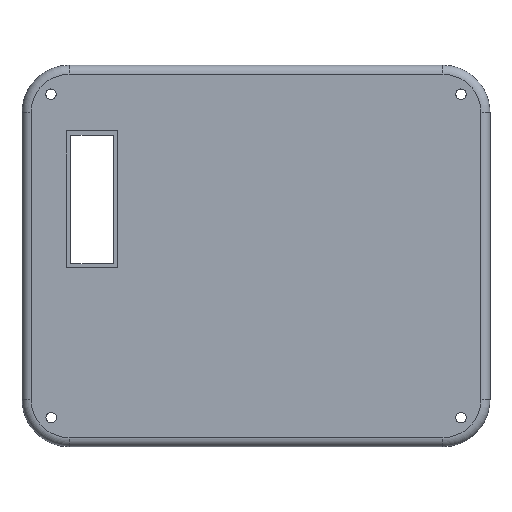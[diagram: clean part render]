
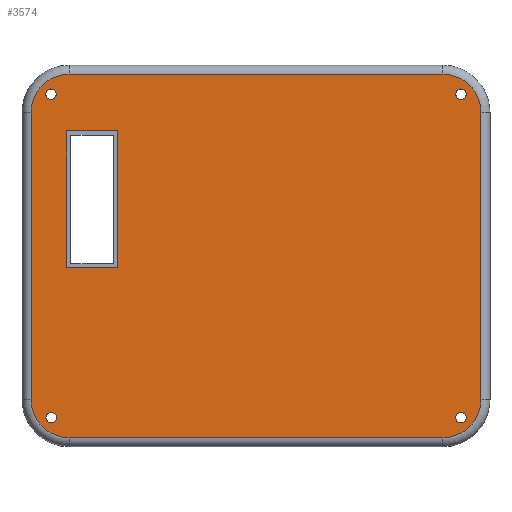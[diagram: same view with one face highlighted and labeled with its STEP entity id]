
A CAD part, top view. The second image highlights one B-rep face of the part: STEP entity #3574.
In plain terms, the highlighted planar face has unit normal (0, 0, 1).
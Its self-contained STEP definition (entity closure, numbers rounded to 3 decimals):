
#29=FACE_BOUND('',#1301,.T.);
#30=FACE_BOUND('',#1302,.T.);
#31=FACE_BOUND('',#1303,.T.);
#32=FACE_BOUND('',#1304,.T.);
#33=FACE_BOUND('',#1305,.T.);
#90=PLANE('',#3800);
#235=LINE('',#5125,#657);
#237=LINE('',#5137,#659);
#239=LINE('',#5149,#661);
#241=LINE('',#5158,#663);
#276=LINE('',#5238,#698);
#277=LINE('',#5240,#699);
#278=LINE('',#5242,#700);
#279=LINE('',#5243,#701);
#657=VECTOR('',#4093,10.);
#659=VECTOR('',#4107,10.);
#661=VECTOR('',#4121,10.);
#663=VECTOR('',#4133,10.);
#698=VECTOR('',#4186,10.);
#699=VECTOR('',#4187,10.);
#700=VECTOR('',#4188,10.);
#701=VECTOR('',#4189,10.);
#1110=FACE_OUTER_BOUND('',#1300,.T.);
#1300=EDGE_LOOP('',(#2555,#2556,#2557,#2558,#2559,#2560,#2561,#2562));
#1301=EDGE_LOOP('',(#2563,#2564,#2565,#2566));
#1302=EDGE_LOOP('',(#2567));
#1303=EDGE_LOOP('',(#2568));
#1304=EDGE_LOOP('',(#2569));
#1305=EDGE_LOOP('',(#2570));
#1494=CIRCLE('',#3770,11.284);
#1500=CIRCLE('',#3778,11.284);
#1504=CIRCLE('',#3784,11.284);
#1508=CIRCLE('',#3790,11.284);
#1511=CIRCLE('',#3801,1.55);
#1512=CIRCLE('',#3802,1.55);
#1513=CIRCLE('',#3803,1.55);
#1514=CIRCLE('',#3804,1.55);
#1582=VERTEX_POINT('',#5113);
#1583=VERTEX_POINT('',#5115);
#1585=VERTEX_POINT('',#5121);
#1587=VERTEX_POINT('',#5127);
#1589=VERTEX_POINT('',#5133);
#1591=VERTEX_POINT('',#5139);
#1593=VERTEX_POINT('',#5145);
#1595=VERTEX_POINT('',#5151);
#1631=VERTEX_POINT('',#5236);
#1632=VERTEX_POINT('',#5237);
#1633=VERTEX_POINT('',#5239);
#1634=VERTEX_POINT('',#5241);
#1635=VERTEX_POINT('',#5244);
#1636=VERTEX_POINT('',#5246);
#1637=VERTEX_POINT('',#5248);
#1638=VERTEX_POINT('',#5250);
#1939=EDGE_CURVE('',#1582,#1583,#1494,.T.);
#1944=EDGE_CURVE('',#1583,#1585,#235,.T.);
#1947=EDGE_CURVE('',#1585,#1587,#1500,.T.);
#1950=EDGE_CURVE('',#1587,#1589,#237,.T.);
#1953=EDGE_CURVE('',#1589,#1591,#1504,.T.);
#1956=EDGE_CURVE('',#1591,#1593,#239,.T.);
#1959=EDGE_CURVE('',#1593,#1595,#1508,.T.);
#1961=EDGE_CURVE('',#1595,#1582,#241,.T.);
#2000=EDGE_CURVE('',#1631,#1632,#276,.T.);
#2001=EDGE_CURVE('',#1632,#1633,#277,.T.);
#2002=EDGE_CURVE('',#1633,#1634,#278,.T.);
#2003=EDGE_CURVE('',#1634,#1631,#279,.T.);
#2004=EDGE_CURVE('',#1635,#1635,#1511,.T.);
#2005=EDGE_CURVE('',#1636,#1636,#1512,.T.);
#2006=EDGE_CURVE('',#1637,#1637,#1513,.T.);
#2007=EDGE_CURVE('',#1638,#1638,#1514,.T.);
#2555=ORIENTED_EDGE('',*,*,#1939,.F.);
#2556=ORIENTED_EDGE('',*,*,#1961,.F.);
#2557=ORIENTED_EDGE('',*,*,#1959,.F.);
#2558=ORIENTED_EDGE('',*,*,#1956,.F.);
#2559=ORIENTED_EDGE('',*,*,#1953,.F.);
#2560=ORIENTED_EDGE('',*,*,#1950,.F.);
#2561=ORIENTED_EDGE('',*,*,#1947,.F.);
#2562=ORIENTED_EDGE('',*,*,#1944,.F.);
#2563=ORIENTED_EDGE('',*,*,#2000,.T.);
#2564=ORIENTED_EDGE('',*,*,#2001,.T.);
#2565=ORIENTED_EDGE('',*,*,#2002,.T.);
#2566=ORIENTED_EDGE('',*,*,#2003,.T.);
#2567=ORIENTED_EDGE('',*,*,#2004,.T.);
#2568=ORIENTED_EDGE('',*,*,#2005,.T.);
#2569=ORIENTED_EDGE('',*,*,#2006,.T.);
#2570=ORIENTED_EDGE('',*,*,#2007,.T.);
#3574=ADVANCED_FACE('',(#1110,#29,#30,#31,#32,#33),#90,.T.);
#3770=AXIS2_PLACEMENT_3D('',#5116,#4082,#4083);
#3778=AXIS2_PLACEMENT_3D('',#5131,#4100,#4101);
#3784=AXIS2_PLACEMENT_3D('',#5143,#4114,#4115);
#3790=AXIS2_PLACEMENT_3D('',#5155,#4128,#4129);
#3800=AXIS2_PLACEMENT_3D('',#5235,#4184,#4185);
#3801=AXIS2_PLACEMENT_3D('',#5245,#4190,#4191);
#3802=AXIS2_PLACEMENT_3D('',#5247,#4192,#4193);
#3803=AXIS2_PLACEMENT_3D('',#5249,#4194,#4195);
#3804=AXIS2_PLACEMENT_3D('',#5251,#4196,#4197);
#4082=DIRECTION('center_axis',(0.,0.,
-1.));
#4083=DIRECTION('ref_axis',(-0.707,0.707,0.));
#4093=DIRECTION('',(1.,0.,0.));
#4100=DIRECTION('center_axis',(0.,0.,
-1.));
#4101=DIRECTION('ref_axis',(0.707,0.707,0.));
#4107=DIRECTION('',(0.,-1.,0.));
#4114=DIRECTION('center_axis',(0.,0.,
-1.));
#4115=DIRECTION('ref_axis',(0.707,-0.707,0.));
#4121=DIRECTION('',(-1.,0.,0.));
#4128=DIRECTION('center_axis',(0.,0.,
-1.));
#4129=DIRECTION('ref_axis',(-0.707,-0.707,0.));
#4133=DIRECTION('',(0.,1.,0.));
#4184=DIRECTION('center_axis',(0.,0.,
1.));
#4185=DIRECTION('ref_axis',(1.,0.,0.));
#4186=DIRECTION('',(0.,1.,0.));
#4187=DIRECTION('',(1.,0.,0.));
#4188=DIRECTION('',(0.,-1.,0.));
#4189=DIRECTION('',(-1.,0.,0.));
#4190=DIRECTION('center_axis',(0.,0.,
-1.));
#4191=DIRECTION('ref_axis',(-1.,0.,0.));
#4192=DIRECTION('center_axis',(0.,0.,
-1.));
#4193=DIRECTION('ref_axis',(-1.,0.,0.));
#4194=DIRECTION('center_axis',(0.,0.,
-1.));
#4195=DIRECTION('ref_axis',(-1.,0.,0.));
#4196=DIRECTION('center_axis',(0.,0.,
-1.));
#4197=DIRECTION('ref_axis',(-1.,0.,0.));
#5113=CARTESIAN_POINT('',(-0.964,95.47,20.4));
#5115=CARTESIAN_POINT('',(10.32,106.754,20.4));
#5116=CARTESIAN_POINT('Origin',(10.32,95.47,20.4));
#5121=CARTESIAN_POINT('',(121.125,106.754,20.4));
#5125=CARTESIAN_POINT('',(93.584,106.754,20.4));
#5127=CARTESIAN_POINT('',(132.409,95.47,20.4));
#5131=CARTESIAN_POINT('Origin',(121.125,95.47,20.4));
#5133=CARTESIAN_POINT('',(132.409,10.32,20.4));
#5137=CARTESIAN_POINT('',(132.409,31.448,20.4));
#5139=CARTESIAN_POINT('',(121.125,-0.964,20.4));
#5143=CARTESIAN_POINT('Origin',(121.125,10.32,20.4));
#5145=CARTESIAN_POINT('',(10.32,-0.964,20.4));
#5149=CARTESIAN_POINT('',(37.861,-0.964,20.4));
#5151=CARTESIAN_POINT('',(-0.964,10.32,20.4));
#5155=CARTESIAN_POINT('Origin',(10.32,10.32,20.4));
#5158=CARTESIAN_POINT('',(-0.964,74.343,20.4));
#5235=CARTESIAN_POINT('Origin',(65.723,52.895,20.4));
#5236=CARTESIAN_POINT('',(9.569,49.392,20.4));
#5237=CARTESIAN_POINT('',(9.569,89.992,20.4));
#5238=CARTESIAN_POINT('',(9.569,51.144,20.4));
#5239=CARTESIAN_POINT('',(24.769,89.992,20.4));
#5240=CARTESIAN_POINT('',(37.646,89.992,20.4));
#5241=CARTESIAN_POINT('',(24.769,49.392,20.4));
#5242=CARTESIAN_POINT('',(24.769,71.444,20.4));
#5243=CARTESIAN_POINT('',(45.246,49.392,20.4));
#5244=CARTESIAN_POINT('',(128.04,100.85,20.4));
#5245=CARTESIAN_POINT('Origin',(126.49,100.85,20.4));
#5246=CARTESIAN_POINT('',(6.55,5.,20.4));
#5247=CARTESIAN_POINT('Origin',(5.,5.,20.4));
#5248=CARTESIAN_POINT('',(128.04,4.95,20.4));
#5249=CARTESIAN_POINT('Origin',(126.49,4.95,20.4));
#5250=CARTESIAN_POINT('',(6.5,100.85,20.4));
#5251=CARTESIAN_POINT('Origin',(4.95,100.85,20.4));
